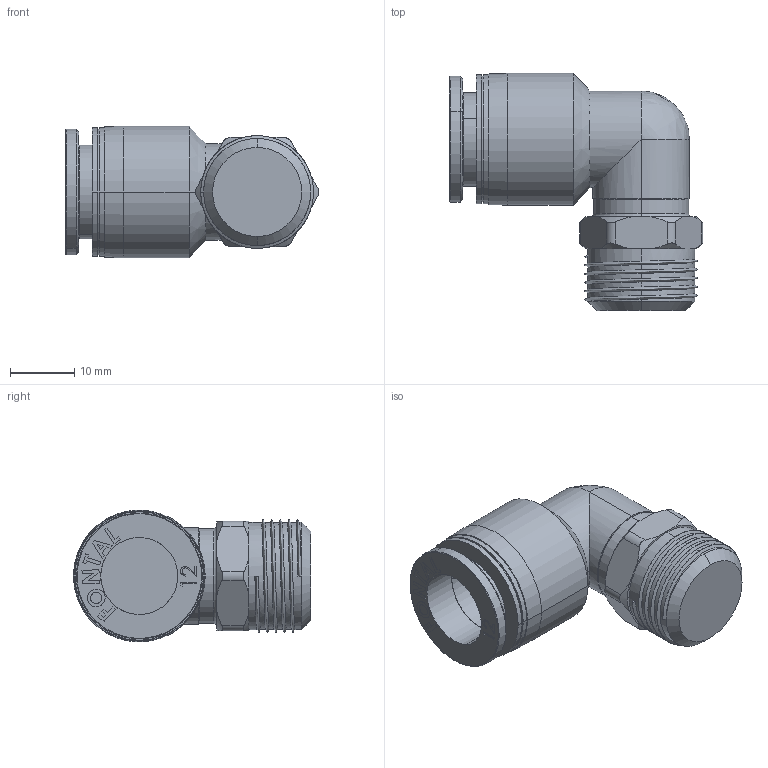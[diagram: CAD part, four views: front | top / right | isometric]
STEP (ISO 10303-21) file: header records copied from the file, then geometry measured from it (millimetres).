
FILE_DESCRIPTION (( 'STEP AP203' ), '1' );
FILE_NAME ('FPL12-03.STEP', '2016-01-14T21:02:00', ( '' ), ( '' ), 'SwSTEP 2.0', 'SolidWorks 2014', '' );
FILE_SCHEMA (( 'CONFIG_CONTROL_DESIGN' ));
Length unit declared in the file: millimetre
Products named in the file (4): FPL12-03; FPL10-03-B; FPL12-02-A; FPC12-02-A
Assembly tree (3 placements, depth 2):
  FPL12-03
    FPL12-02-A
    FPC12-02-A
    FPL10-03-B
Bounding box: 39.43 x 36.89 x 20.5 mm (x, y, z)
Volume: 10447.9 mm3; surface area: 5581.9 mm2
Topology: 3 solids, 3 shells, 175 faces, 435 edges, 282 vertices
Faces by surface type: plane 89, cylinder 41, cone 22, bspline 17, torus 6
Entity records: 8601 total; most frequent: CARTESIAN_POINT 4218, ORIENTED_EDGE 866, DIRECTION 746, EDGE_CURVE 433, VERTEX_POINT 282, LINE 258, VECTOR 258, AXIS2_PLACEMENT_3D 244
